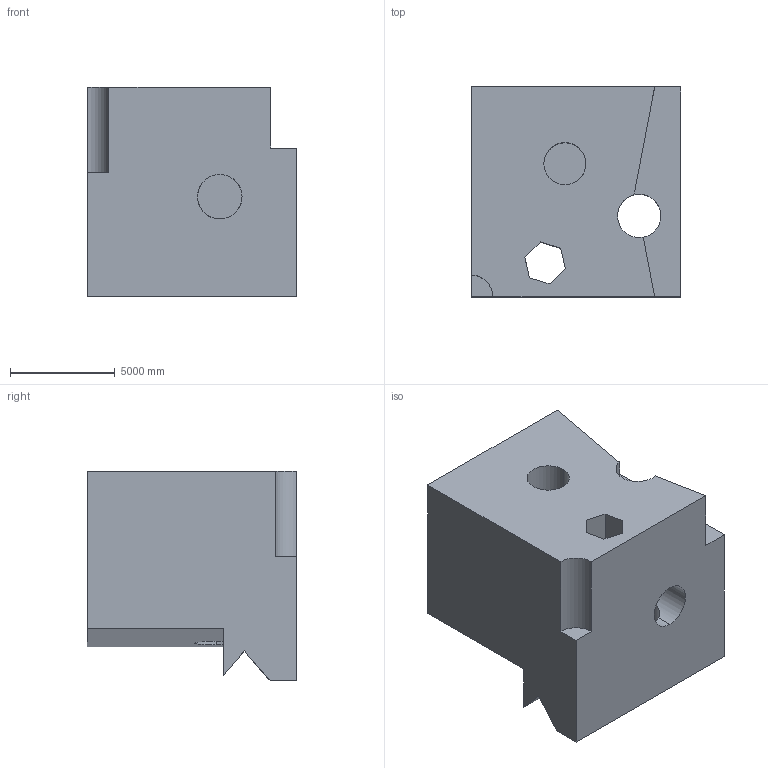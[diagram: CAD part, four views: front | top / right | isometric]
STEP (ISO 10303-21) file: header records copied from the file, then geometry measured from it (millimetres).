
FILE_DESCRIPTION (( 'STEP AP203' ), '1' );
FILE_NAME ('372.STEP', '2022-09-07T15:24:09', ( 'user' ), ( '' ), 'SwSTEP 2.0', 'SolidWorks 2021', '' );
FILE_SCHEMA (( 'CONFIG_CONTROL_DESIGN' ));
Length unit declared in the file: centimetre
Products named in the file (1): 372
Bounding box: 10000 x 10000 x 10000 mm (x, y, z)
Volume: 686818866909.7 mm3; surface area: 750006609.6 mm2
Topology: 1 solids, 1 shells, 36 faces, 117 edges, 78 vertices
Faces by surface type: plane 27, cylinder 9
Entity records: 2214 total; most frequent: CARTESIAN_POINT 1114, ORIENTED_EDGE 234, DIRECTION 191, EDGE_CURVE 117, LINE 83, VECTOR 83, VERTEX_POINT 78, AXIS2_PLACEMENT_3D 54
